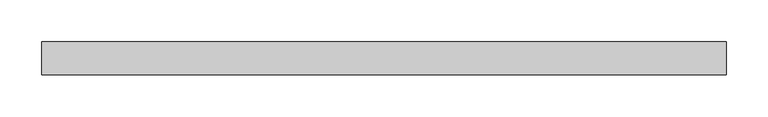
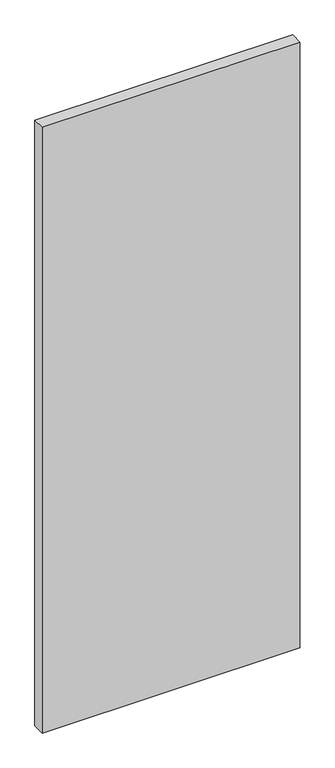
"""IFC4 building model written with IfcOpenShell, lengths in millimetres: plate geometry, Panneau système : Vitre 4cm."""

from ifc_helpers import new_model, si_unit, origin, origin_with_axes, place, context, project, spatial, polyline, outline, extrude, source, transform, mapped, element, save


def plate_1c280419(model_context):
    return source(origin(), model_context, "Body", "SweptSolid", [
        extrude(outline(polyline([(411.0, -20.0), (-411.0, -20.0), (-411.0, 20.0), (411.0, 20.0), (411.0, -20.0)])), origin_with_axes(), (0.0, 0.0, 1.0), 2042.0),
    ])


if __name__ == "__main__":
    model = new_model("IFC4")
    model_context = context("Model", 3, world=origin())
    ifc_project = project(units=[si_unit("LENGTHUNIT", "METRE", prefix="MILLI")], contexts=[model_context])
    site = spatial("IfcSite", under=ifc_project)
    building = spatial("IfcBuilding", under=site)
    placement = place(None, origin())
    plate_shape = plate_1c280419(model_context)
    element("IfcPlate", 1, ObjectType="Panneau système : Vitre 4cm", at=placement, inside=building, context=model_context, shape_type="MappedRepresentation", body=[
        mapped(plate_shape, transform((0.0, 0.0, 0.0), x_axis=(1.0, 0.0, 0.0), y_axis=(0.0, 1.0, 0.0), z_axis=(0.0, 0.0, 1.0))),
    ])
    save(model, "model.ifc")
